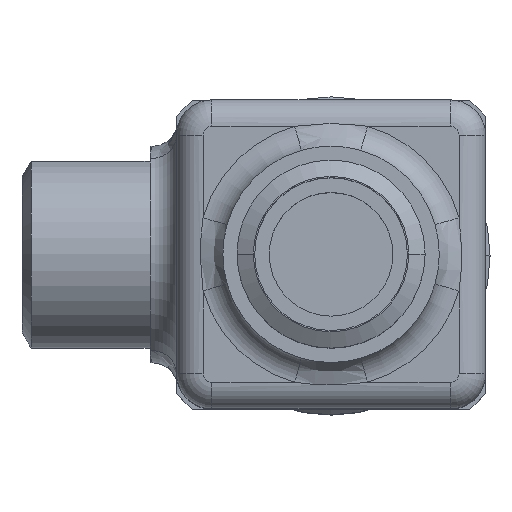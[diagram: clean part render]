
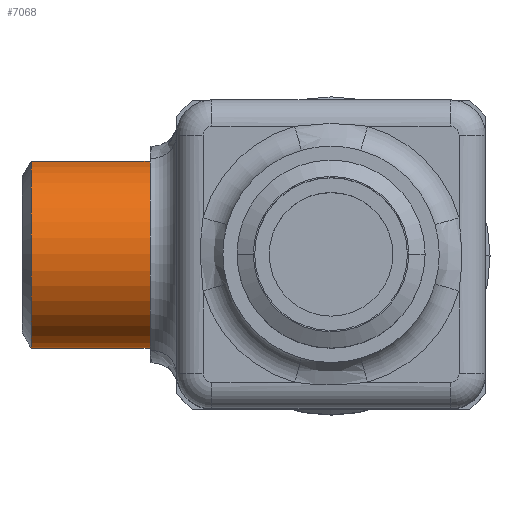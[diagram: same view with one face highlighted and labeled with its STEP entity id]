
A CAD part, top view. The second image highlights one B-rep face of the part: STEP entity #7068.
In plain terms, the highlighted cylindrical face has radius 10.6 mm (diameter 21.2 mm), a partial arc.
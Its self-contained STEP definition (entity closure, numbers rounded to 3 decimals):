
#160 = VERTEX_POINT ( 'NONE', #7318 ) ;
#378 = VERTEX_POINT ( 'NONE', #7412 ) ;
#2382 = CARTESIAN_POINT ( 'NONE',  ( -33.961, -10.6, 14.5 ) ) ;
#2698 = LINE ( 'NONE', #2699, #2700 ) ;
#2699 = CARTESIAN_POINT ( 'NONE',  ( -20.5, -10.6, 14.5 ) ) ;
#2700 = VECTOR ( 'NONE', #2701, 1000. ) ;
#2701 = DIRECTION ( 'NONE',  ( -1., 0., 0. ) ) ;
#2713 = EDGE_CURVE ( 'NONE', #160, #5584, #9474, .T. ) ;
#2842 = FACE_OUTER_BOUND ( 'NONE', #7053, .T. ) ;
#2843 = CYLINDRICAL_SURFACE ( 'NONE', #2844, 10.6 ) ;
#2844 = AXIS2_PLACEMENT_3D ( 'NONE', #2845, #2846, #2847 ) ;
#2845 = CARTESIAN_POINT ( 'NONE',  ( -20.5, 0., 14.5 ) ) ;
#2846 = DIRECTION ( 'NONE',  ( -1., 0., 0. ) ) ;
#2847 = DIRECTION ( 'NONE',  ( 0., -1., 0. ) ) ;
#3064 = ORIENTED_EDGE ( 'NONE', *, *, #2713, .T. ) ;
#3517 = CIRCLE ( 'NONE', #3518, 10.6 ) ;
#3518 = AXIS2_PLACEMENT_3D ( 'NONE', #3519, #3520, #3521 ) ;
#3519 = CARTESIAN_POINT ( 'NONE',  ( -20.5, 0., 14.5 ) ) ;
#3520 = DIRECTION ( 'NONE',  ( -1., 0., 0. ) ) ;
#3521 = DIRECTION ( 'NONE',  ( 0., -1., 0. ) ) ;
#3759 = CARTESIAN_POINT ( 'NONE',  ( -33.961, 10.6, 14.5 ) ) ;
#4154 = VERTEX_POINT ( 'NONE', #2382 ) ;
#5099 = EDGE_CURVE ( 'NONE', #378, #160, #3517, .T. ) ;
#5256 = ORIENTED_EDGE ( 'NONE', *, *, #5099, .T. ) ;
#5584 = VERTEX_POINT ( 'NONE', #3759 ) ;
#6730 = EDGE_CURVE ( 'NONE', #5584, #4154, #7848, .T. ) ;
#6774 = ORIENTED_EDGE ( 'NONE', *, *, #6730, .T. ) ;
#7050 = EDGE_CURVE ( 'NONE', #378, #4154, #2698, .T. ) ;
#7053 = EDGE_LOOP ( 'NONE', ( #5256, #3064, #6774, #8217 ) ) ;
#7068 = ADVANCED_FACE ( 'NONE', ( #2842 ), #2843, .T. ) ;
#7318 = CARTESIAN_POINT ( 'NONE',  ( -20.5, 10.6, 14.5 ) ) ;
#7412 = CARTESIAN_POINT ( 'NONE',  ( -20.5, -10.6, 14.5 ) ) ;
#7848 = CIRCLE ( 'NONE', #7849, 10.6 ) ;
#7849 = AXIS2_PLACEMENT_3D ( 'NONE', #7850, #7851, #7852 ) ;
#7850 = CARTESIAN_POINT ( 'NONE',  ( -33.961, 0., 14.5 ) ) ;
#7851 = DIRECTION ( 'NONE',  ( 1., 0., 0. ) ) ;
#7852 = DIRECTION ( 'NONE',  ( 0., 1., 0. ) ) ;
#8217 = ORIENTED_EDGE ( 'NONE', *, *, #7050, .F. ) ;
#9474 = LINE ( 'NONE', #9475, #9476 ) ;
#9475 = CARTESIAN_POINT ( 'NONE',  ( -20.5, 10.6, 14.5 ) ) ;
#9476 = VECTOR ( 'NONE', #9477, 1000. ) ;
#9477 = DIRECTION ( 'NONE',  ( -1., 0., 0. ) ) ;
